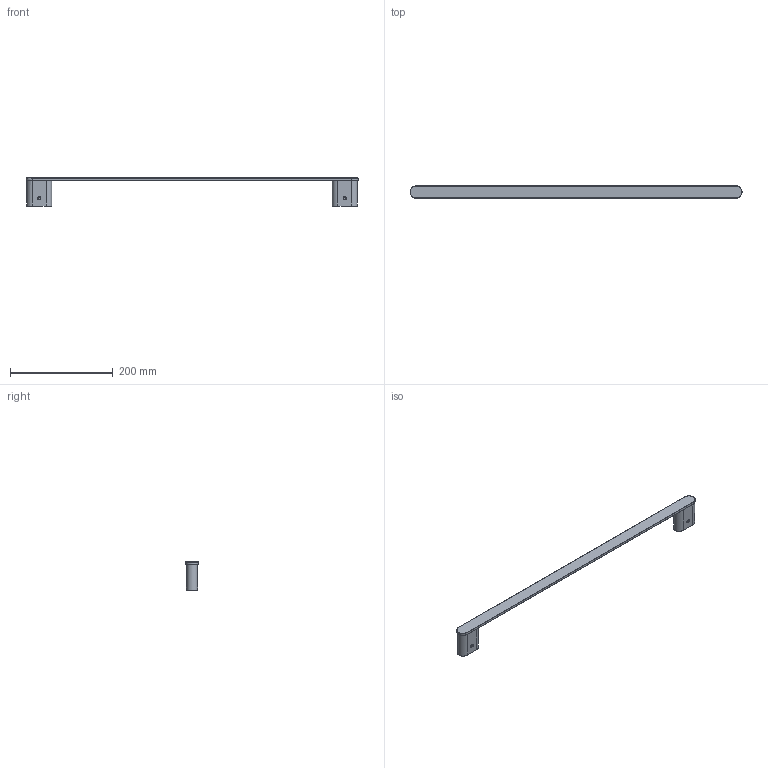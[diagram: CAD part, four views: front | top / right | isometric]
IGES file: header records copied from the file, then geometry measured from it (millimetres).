
Global section: file name: 276b7424-8a82-4b80-9f51-39b2006946fd; native system: unknown; preprocessor: unknown; author: unknown; organization: unknown; date: 20200108.080840; units: millimetre
Bounding box: 644.97 x 24 x 55 mm (x, y, z)
Volume: 173313.6 mm3; surface area: 53020 mm2
Topology: 3 solids, 3 shells, 92 faces, 196 edges, 112 vertices
Faces by surface type: bspline 92
